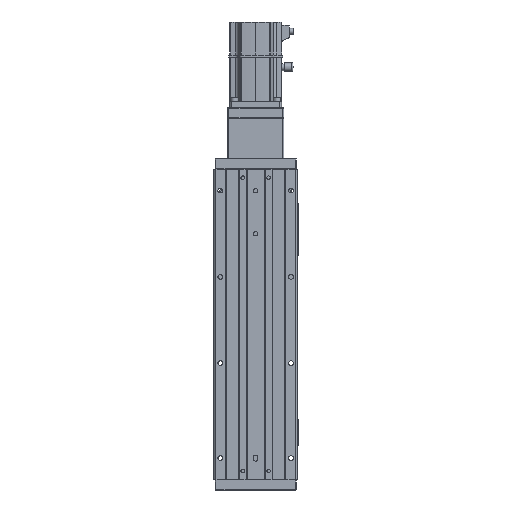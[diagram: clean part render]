
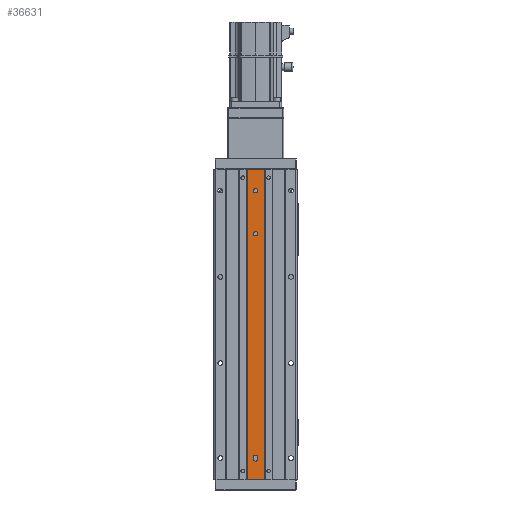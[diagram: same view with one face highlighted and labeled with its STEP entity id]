
A CAD part, front view. The second image highlights one B-rep face of the part: STEP entity #36631.
In plain terms, the highlighted planar face has unit normal (0, -1, 0).
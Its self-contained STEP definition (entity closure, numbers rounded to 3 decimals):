
#121 = CARTESIAN_POINT ( 'NONE',  ( -10., 1., 180. ) ) ;
#531 = AXIS2_PLACEMENT_3D ( 'NONE', #36280, #6298, #19625 ) ;
#732 = ORIENTED_EDGE ( 'NONE', *, *, #1781, .F. ) ;
#832 = EDGE_CURVE ( 'NONE', #26628, #21440, #34120, .T. ) ;
#868 = EDGE_CURVE ( 'NONE', #5099, #21440, #20973, .T. ) ;
#1420 = CARTESIAN_POINT ( 'NONE',  ( 0., 1., -154. ) ) ;
#1431 = VERTEX_POINT ( 'NONE', #39979 ) ;
#1659 = EDGE_LOOP ( 'NONE', ( #23403, #26379, #29486, #6880 ) ) ;
#1781 = EDGE_CURVE ( 'NONE', #3548, #1431, #16695, .T. ) ;
#1945 = FACE_BOUND ( 'NONE', #33249, .T. ) ;
#1956 = ORIENTED_EDGE ( 'NONE', *, *, #42674, .F. ) ;
#2777 = VECTOR ( 'NONE', #19713, 1000. ) ;
#3101 = CARTESIAN_POINT ( 'NONE',  ( 0., 1., 155. ) ) ;
#3208 = DIRECTION ( 'NONE',  ( 0., -1., 0. ) ) ;
#3548 = VERTEX_POINT ( 'NONE', #35511 ) ;
#3554 = VERTEX_POINT ( 'NONE', #5534 ) ;
#4148 = CARTESIAN_POINT ( 'NONE',  ( -10., 1., 180. ) ) ;
#4347 = DIRECTION ( 'NONE',  ( 0., 0., 1. ) ) ;
#5099 = VERTEX_POINT ( 'NONE', #7243 ) ;
#5534 = CARTESIAN_POINT ( 'NONE',  ( 2.5, 1., -156. ) ) ;
#6298 = DIRECTION ( 'NONE',  ( 0., -1., 0. ) ) ;
#6390 = CARTESIAN_POINT ( 'NONE',  ( 10., 1., -180. ) ) ;
#6880 = ORIENTED_EDGE ( 'NONE', *, *, #17009, .T. ) ;
#6894 = EDGE_CURVE ( 'NONE', #3554, #26239, #14744, .T. ) ;
#7243 = CARTESIAN_POINT ( 'NONE',  ( -10., 1., -180. ) ) ;
#7836 = DIRECTION ( 'NONE',  ( 1., 0., 0. ) ) ;
#8709 = DIRECTION ( 'NONE',  ( -1., 0., 0. ) ) ;
#8947 = VERTEX_POINT ( 'NONE', #10282 ) ;
#10282 = CARTESIAN_POINT ( 'NONE',  ( -2.5, 1., -154. ) ) ;
#11367 = DIRECTION ( 'NONE',  ( 0., -1., 0. ) ) ;
#11525 = CARTESIAN_POINT ( 'NONE',  ( 10., 1., -180. ) ) ;
#11978 = DIRECTION ( 'NONE',  ( 0., 0., -1. ) ) ;
#11989 = PLANE ( 'NONE',  #35703 ) ;
#13307 = VECTOR ( 'NONE', #11978, 1000. ) ;
#13611 = EDGE_CURVE ( 'NONE', #32980, #35874, #40299, .T. ) ;
#13824 = LINE ( 'NONE', #27160, #29331 ) ;
#14620 = CIRCLE ( 'NONE', #39098, 2.5 ) ;
#14744 = LINE ( 'NONE', #28072, #27044 ) ;
#14747 = DIRECTION ( 'NONE',  ( 0., -1., 0. ) ) ;
#14961 = CIRCLE ( 'NONE', #39435, 2.5 ) ;
#15288 = FACE_BOUND ( 'NONE', #37642, .T. ) ;
#16008 = AXIS2_PLACEMENT_3D ( 'NONE', #3101, #16430, #29777 ) ;
#16430 = DIRECTION ( 'NONE',  ( 0., -1., 0. ) ) ;
#16540 = DIRECTION ( 'NONE',  ( 1., 0., 0. ) ) ;
#16695 = CIRCLE ( 'NONE', #16008, 2.5 ) ;
#17009 = EDGE_CURVE ( 'NONE', #24021, #26628, #36376, .T. ) ;
#17472 = DIRECTION ( 'NONE',  ( -1., 0., 0. ) ) ;
#18483 = CARTESIAN_POINT ( 'NONE',  ( 2.5, 1., 105. ) ) ;
#18929 = EDGE_CURVE ( 'NONE', #24021, #5099, #13824, .T. ) ;
#19365 = CIRCLE ( 'NONE', #531, 2.5 ) ;
#19590 = EDGE_CURVE ( 'NONE', #8947, #33423, #28614, .T. ) ;
#19625 = DIRECTION ( 'NONE',  ( 1., 0., 0. ) ) ;
#19713 = DIRECTION ( 'NONE',  ( 0., 0., 1. ) ) ;
#20973 = LINE ( 'NONE', #34326, #24595 ) ;
#21397 = AXIS2_PLACEMENT_3D ( 'NONE', #33162, #3208, #16540 ) ;
#21403 = CARTESIAN_POINT ( 'NONE',  ( -2.5, 1., 105. ) ) ;
#21440 = VERTEX_POINT ( 'NONE', #121 ) ;
#21600 = EDGE_CURVE ( 'NONE', #26239, #8947, #21817, .T. ) ;
#21817 = CIRCLE ( 'NONE', #27419, 2.5 ) ;
#23403 = ORIENTED_EDGE ( 'NONE', *, *, #832, .T. ) ;
#24021 = VERTEX_POINT ( 'NONE', #11525 ) ;
#24461 = CARTESIAN_POINT ( 'NONE',  ( 0., 1., 155. ) ) ;
#24595 = VECTOR ( 'NONE', #4347, 1000. ) ;
#24713 = DIRECTION ( 'NONE',  ( 1., 0., 0. ) ) ;
#25321 = CARTESIAN_POINT ( 'NONE',  ( -10., 1., -180. ) ) ;
#25990 = VECTOR ( 'NONE', #17472, 1000. ) ;
#26239 = VERTEX_POINT ( 'NONE', #33730 ) ;
#26379 = ORIENTED_EDGE ( 'NONE', *, *, #868, .F. ) ;
#26628 = VERTEX_POINT ( 'NONE', #29743 ) ;
#26820 = EDGE_CURVE ( 'NONE', #1431, #3548, #14961, .T. ) ;
#27044 = VECTOR ( 'NONE', #41451, 1000. ) ;
#27160 = CARTESIAN_POINT ( 'NONE',  ( -10., 1., -180. ) ) ;
#27419 = AXIS2_PLACEMENT_3D ( 'NONE', #1420, #14747, #28077 ) ;
#28035 = ORIENTED_EDGE ( 'NONE', *, *, #13611, .F. ) ;
#28072 = CARTESIAN_POINT ( 'NONE',  ( 2.5, 1., -154. ) ) ;
#28077 = DIRECTION ( 'NONE',  ( 1., 0., 0. ) ) ;
#28614 = LINE ( 'NONE', #42001, #13307 ) ;
#28624 = FACE_BOUND ( 'NONE', #39529, .T. ) ;
#29331 = VECTOR ( 'NONE', #40540, 1000. ) ;
#29486 = ORIENTED_EDGE ( 'NONE', *, *, #18929, .F. ) ;
#29743 = CARTESIAN_POINT ( 'NONE',  ( 10., 1., 180. ) ) ;
#29777 = DIRECTION ( 'NONE',  ( 1., 0., 0. ) ) ;
#31640 = CARTESIAN_POINT ( 'NONE',  ( -2.5, 1., -156. ) ) ;
#32312 = ORIENTED_EDGE ( 'NONE', *, *, #6894, .F. ) ;
#32980 = VERTEX_POINT ( 'NONE', #21403 ) ;
#33057 = ORIENTED_EDGE ( 'NONE', *, *, #19590, .F. ) ;
#33162 = CARTESIAN_POINT ( 'NONE',  ( 0., 1., 105. ) ) ;
#33249 = EDGE_LOOP ( 'NONE', ( #732, #42889 ) ) ;
#33423 = VERTEX_POINT ( 'NONE', #31640 ) ;
#33730 = CARTESIAN_POINT ( 'NONE',  ( 2.5, 1., -154. ) ) ;
#34120 = LINE ( 'NONE', #4148, #25990 ) ;
#34326 = CARTESIAN_POINT ( 'NONE',  ( -10., 1., -180. ) ) ;
#34917 = EDGE_CURVE ( 'NONE', #35874, #32980, #14620, .T. ) ;
#35511 = CARTESIAN_POINT ( 'NONE',  ( 2.5, 1., 155. ) ) ;
#35703 = AXIS2_PLACEMENT_3D ( 'NONE', #25321, #38708, #8709 ) ;
#35874 = VERTEX_POINT ( 'NONE', #18483 ) ;
#36280 = CARTESIAN_POINT ( 'NONE',  ( 0., 1., -156. ) ) ;
#36376 = LINE ( 'NONE', #6390, #2777 ) ;
#36631 = ADVANCED_FACE ( 'NONE', ( #1945, #15288, #28624, #42012 ), #11989, .F. ) ;
#37642 = EDGE_LOOP ( 'NONE', ( #40804, #28035 ) ) ;
#37843 = DIRECTION ( 'NONE',  ( 0., -1., 0. ) ) ;
#38708 = DIRECTION ( 'NONE',  ( 0., 1., 0. ) ) ;
#39098 = AXIS2_PLACEMENT_3D ( 'NONE', #41388, #11367, #24713 ) ;
#39435 = AXIS2_PLACEMENT_3D ( 'NONE', #24461, #37843, #7836 ) ;
#39529 = EDGE_LOOP ( 'NONE', ( #33057, #40850, #32312, #1956 ) ) ;
#39979 = CARTESIAN_POINT ( 'NONE',  ( -2.5, 1., 155. ) ) ;
#40299 = CIRCLE ( 'NONE', #21397, 2.5 ) ;
#40540 = DIRECTION ( 'NONE',  ( -1., 0., 0. ) ) ;
#40804 = ORIENTED_EDGE ( 'NONE', *, *, #34917, .F. ) ;
#40850 = ORIENTED_EDGE ( 'NONE', *, *, #21600, .F. ) ;
#41388 = CARTESIAN_POINT ( 'NONE',  ( 0., 1., 105. ) ) ;
#41451 = DIRECTION ( 'NONE',  ( 0., 0., 1. ) ) ;
#42001 = CARTESIAN_POINT ( 'NONE',  ( -2.5, 1., -154. ) ) ;
#42012 = FACE_OUTER_BOUND ( 'NONE', #1659, .T. ) ;
#42674 = EDGE_CURVE ( 'NONE', #33423, #3554, #19365, .T. ) ;
#42889 = ORIENTED_EDGE ( 'NONE', *, *, #26820, .F. ) ;
